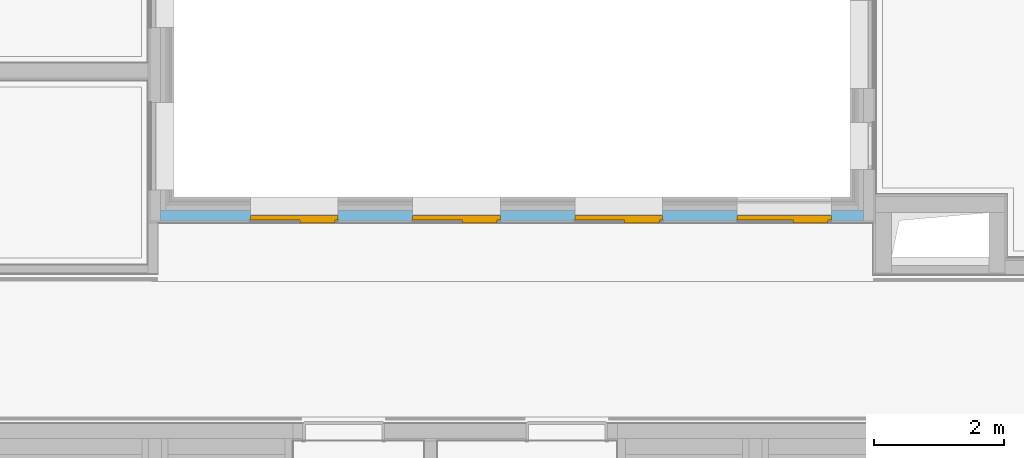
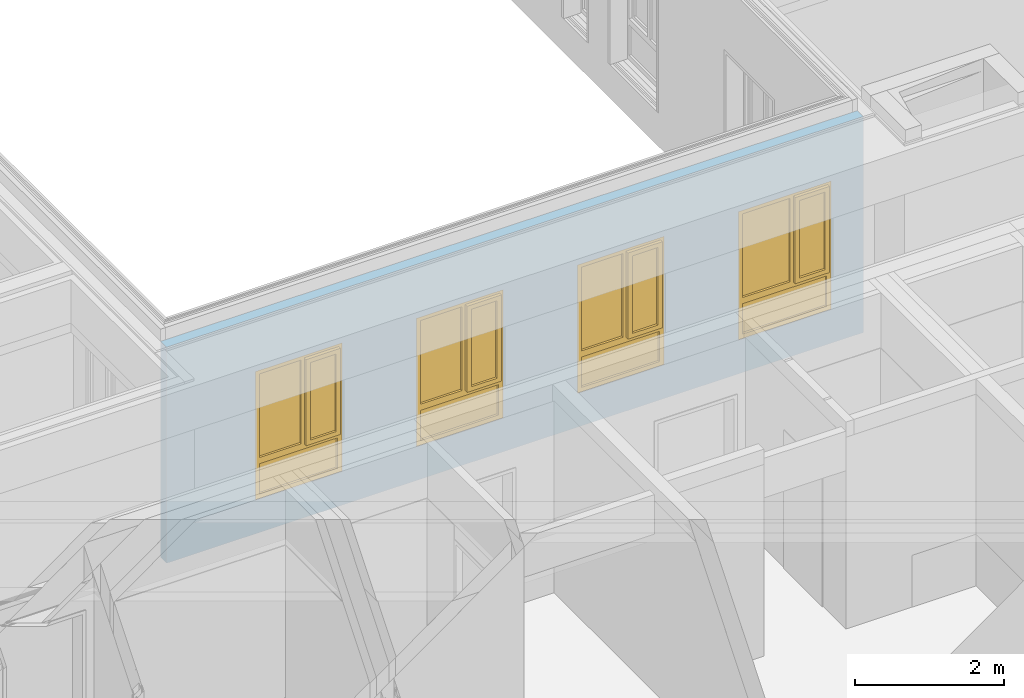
# One storey, part 65 of 222: 4 windows, 4 openings, plus 1 element that does not belong to this part.
"""IFC4 building model written with IfcOpenShell, lengths in metres."""

from ifc_helpers import new_model, entity, si_unit, converted_unit, derived_unit, frame, frame_2d, origin, origin_with_axes, place, context, subcontext, project, spatial, polyline, rectangle, outline, extrude, closed_shell, open_shell, surface_model, source, transform, mapped, material, element, fill, save


model = new_model("IFC4")

# Units and contexts
model_context = context("Model", 3, precision=1e-05, world=origin())
body_context = subcontext(model_context, "Body", "Model", "MODEL_VIEW")
ifc_project = project(units=[si_unit("LENGTHUNIT", "METRE"), si_unit("AREAUNIT", "SQUARE_METRE"), si_unit("VOLUMEUNIT", "CUBIC_METRE"), si_unit("MASSUNIT", "GRAM", prefix="KILO"), converted_unit("PLANEANGLEUNIT", "DEGREE", entity("IfcPlaneAngleMeasure", 0.0174532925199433), si_unit("PLANEANGLEUNIT", "RADIAN"), dimensions=[0, 0, 0, 0, 0, 0, 0]), derived_unit("THERMALTRANSMITTANCEUNIT", [(si_unit("POWERUNIT", "WATT"), 1), (si_unit("THERMODYNAMICTEMPERATUREUNIT", "KELVIN"), -1), (si_unit("LENGTHUNIT", "METRE"), -2)]), derived_unit("VOLUMETRICFLOWRATEUNIT", [(si_unit("LENGTHUNIT", "METRE"), 3), (converted_unit("TIMEUNIT", "hour", entity("IfcTimeMeasure", 3600.0), si_unit("TIMEUNIT", "SECOND"), dimensions=[0, 0, 1, 0, 0, 0, 0]), -1), (si_unit("LENGTHUNIT", "METRE"), -1)])], contexts=[model_context])

# Site, building, storey
site_placement = place(None, origin())
site = spatial("IfcSite", under=ifc_project, at=site_placement, Name="Psychiatrie Neubau Wunstorf", CompositionType="ELEMENT")
building_placement = place(site_placement, origin())
building = spatial("IfcBuilding", under=site, at=building_placement, Name="Neubau H2 Stationsgebäude", CompositionType="ELEMENT")
storey_placement = place(building_placement, frame((0.0, 0.0, 3.6)))
storey = spatial("IfcBuildingStorey", under=building, at=storey_placement, Name="H2 Ebene +1", CompositionType="ELEMENT", Elevation=3.6)

# Wall, openings, windows
ifc_material = material(Name="WA-DL")
wall_placement = place(storey_placement, frame((15.835, 7.45, 0.0)))
wall = element("IfcWall", 1, at=wall_placement, inside=storey, material=ifc_material, context=body_context, shape_type="SweptSolid", body=[
    extrude(rectangle(XDim=10.83, YDim=0.160000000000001, at=frame_2d((5.41499999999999, 0.0800000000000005), x_axis=(1.0, 0.0))), origin_with_axes(), (0.0, 0.0, 1.0), 3.55),
])
opening_1_placement = place(wall_placement, frame((10.3351686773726, 0.159999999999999, 0.55), z_axis=(0.0, -1.0, 0.0), x_axis=(0.0, 0.0, 1.0)))
opening_1 = element("IfcOpeningElement", 2, at=opening_1_placement, cuts=wall, Name="Fensteröffnung", ObjectType="Opening", context=body_context, shape_type="SweptSolid", body=[
    extrude(outline(polyline([(2.115, 1.45), (2.115, 0.0), (0.0, 0.0), (0.0, 1.45), (2.115, 1.45)])), origin_with_axes(), (0.0, 0.0, 1.0), 0.160000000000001),
])
opening_2_placement = place(wall_placement, frame((7.73525366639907, 0.160000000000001, 0.55), z_axis=(0.0, -1.0, 0.0), x_axis=(0.0, 0.0, 1.0)))
opening_2 = element("IfcOpeningElement", 3, at=opening_2_placement, cuts=wall, Name="Fensteröffnung", ObjectType="Opening", context=body_context, shape_type="SweptSolid", body=[
    extrude(outline(polyline([(2.115, 1.35), (2.115, 0.0), (0.0, 0.0), (0.0, 1.35), (2.115, 1.35)])), origin_with_axes(), (0.0, 0.0, 1.0), 0.160000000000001),
])
opening_3_placement = place(wall_placement, frame((5.23525366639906, 0.160000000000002, 0.55), z_axis=(0.0, -1.0, 0.0), x_axis=(0.0, 0.0, 1.0)))
opening_3 = element("IfcOpeningElement", 4, at=opening_3_placement, cuts=wall, Name="Fensteröffnung", ObjectType="Opening", context=body_context, shape_type="SweptSolid", body=[
    extrude(outline(polyline([(2.115, 1.35), (2.115, 0.0), (0.0, 0.0), (0.0, 1.35), (2.115, 1.35)])), origin_with_axes(), (0.0, 0.0, 1.0), 0.160000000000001),
])
opening_4_placement = place(wall_placement, frame((2.7352536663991, 0.160000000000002, 0.55), z_axis=(0.0, -1.0, 0.0), x_axis=(0.0, 0.0, 1.0)))
opening_4 = element("IfcOpeningElement", 5, at=opening_4_placement, cuts=wall, Name="Fensteröffnung", ObjectType="Opening", context=body_context, shape_type="SweptSolid", body=[
    extrude(outline(polyline([(2.115, 1.35), (2.115, 0.0), (0.0, 0.0), (0.0, 1.35), (2.115, 1.35)])), origin_with_axes(), (0.0, 0.0, 1.0), 0.160000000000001),
])
shared_shape_1 = source(origin_with_axes(), body_context, "Body", "SurfaceModel", [
    surface_model("IfcShellBasedSurfaceModel", [(1.45, 0.0, 2.115), (1.45, 0.0, 0.0), (1.38, 0.0, 0.0), (1.38, 0.0, 2.115), (1.45, 0.0700000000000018, 0.0), (1.45, 0.0700000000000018, 2.115), (1.38, 0.0700000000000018, 2.115), (1.38, 0.0700000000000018, 0.0)], [closed_shell([[[0, 1, 2, 3]], [[4, 5, 6, 7]], [[1, 0, 5, 4]], [[2, 1, 4, 7]], [[3, 2, 7, 6]], [[0, 3, 6, 5]]], orient=[[False], [False], [False], [False], [False], [False]])]),
    surface_model("IfcShellBasedSurfaceModel", [(0.07, 0.0, 2.115), (0.07, 0.0, 0.0), (0.0, 0.0, 0.0), (0.0, 0.0, 2.115), (0.07, 0.0700000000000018, 0.0), (0.07, 0.0700000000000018, 2.115), (0.0, 0.0700000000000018, 2.115), (0.0, 0.0700000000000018, 0.0)], [closed_shell([[[0, 1, 2, 3]], [[4, 5, 6, 7]], [[1, 0, 5, 4]], [[2, 1, 4, 7]], [[3, 2, 7, 6]], [[0, 3, 6, 5]]], orient=[[False], [False], [False], [False], [False], [False]])]),
    surface_model("IfcShellBasedSurfaceModel", [(1.38, 0.0, 0.07), (1.38, 0.0, 0.0), (0.07, 0.0, 0.0), (0.07, 0.0, 0.07), (1.38, 0.0700000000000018, 0.0), (1.38, 0.0700000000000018, 0.07), (0.07, 0.0700000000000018, 0.07), (0.07, 0.0700000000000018, 0.0)], [closed_shell([[[0, 1, 2, 3]], [[4, 5, 6, 7]], [[1, 0, 5, 4]], [[2, 1, 4, 7]], [[3, 2, 7, 6]], [[0, 3, 6, 5]]], orient=[[False], [False], [False], [False], [False], [False]])]),
    surface_model("IfcShellBasedSurfaceModel", [(1.38, 0.0, 2.115), (1.38, 0.0, 2.045), (0.07, 0.0, 2.045), (0.07, 0.0, 2.115), (1.38, 0.0700000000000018, 2.045), (1.38, 0.0700000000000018, 2.115), (0.07, 0.0700000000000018, 2.115), (0.07, 0.0700000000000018, 2.045)], [closed_shell([[[0, 1, 2, 3]], [[4, 5, 6, 7]], [[1, 0, 5, 4]], [[2, 1, 4, 7]], [[3, 2, 7, 6]], [[0, 3, 6, 5]]], orient=[[False], [False], [False], [False], [False], [False]])]),
    surface_model("IfcShellBasedSurfaceModel", [(1.38, 0.0, 0.67), (1.38, 0.0, 0.57), (0.07, 0.0, 0.57), (0.07, 0.0, 0.67), (1.38, 0.0700000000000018, 0.57), (1.38, 0.0700000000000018, 0.67), (0.07, 0.0700000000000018, 0.67), (0.07, 0.0700000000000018, 0.57)], [closed_shell([[[0, 1, 2, 3]], [[4, 5, 6, 7]], [[1, 0, 5, 4]], [[2, 1, 4, 7]], [[3, 2, 7, 6]], [[0, 3, 6, 5]]], orient=[[False], [False], [False], [False], [False], [False]])]),
    surface_model("IfcShellBasedSurfaceModel", [(1.38, 0.0350000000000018, 0.07), (0.07, 0.0350000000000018, 0.07), (0.07, 0.0350000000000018, 0.57), (1.38, 0.0350000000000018, 0.57)], [open_shell([[[0, 1, 2, 3]]], orient=[[False]])]),
    surface_model("IfcShellBasedSurfaceModel", [(0.884299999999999, 0.0, 2.045), (0.884299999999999, 0.0, 0.67), (0.814299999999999, 0.0, 0.67), (0.814299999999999, 0.0, 2.045), (0.884299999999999, 0.0700000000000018, 0.67), (0.884299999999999, 0.0700000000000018, 2.045), (0.814299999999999, 0.0700000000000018, 2.045), (0.814299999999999, 0.0700000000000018, 0.67)], [closed_shell([[[0, 1, 2, 3]], [[4, 5, 6, 7]], [[1, 0, 5, 4]], [[2, 1, 4, 7]], [[3, 2, 7, 6]], [[0, 3, 6, 5]]], orient=[[False], [False], [False], [False], [False], [False]])]),
    surface_model("IfcShellBasedSurfaceModel", [(1.4, -0.0499999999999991, 2.065), (1.4, -0.0499999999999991, 0.65), (1.33, -0.0499999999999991, 0.65), (1.33, -0.0499999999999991, 2.065), (1.4, 0.0200000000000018, 0.65), (1.4, 0.0200000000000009, 2.065), (1.33, 0.0200000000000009, 2.065), (1.33, 0.0200000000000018, 0.65)], [closed_shell([[[0, 1, 2, 3]], [[4, 5, 6, 7]], [[1, 0, 5, 4]], [[2, 1, 4, 7]], [[3, 2, 7, 6]], [[0, 3, 6, 5]]], orient=[[False], [False], [False], [False], [False], [False]])]),
    surface_model("IfcShellBasedSurfaceModel", [(0.934299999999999, -0.0499999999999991, 2.065), (0.934299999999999, -0.0499999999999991, 0.65), (0.864299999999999, -0.0499999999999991, 0.65), (0.864299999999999, -0.0499999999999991, 2.065), (0.934299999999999, 0.0200000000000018, 0.65), (0.934299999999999, 0.0200000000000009, 2.065), (0.864299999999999, 0.0200000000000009, 2.065), (0.864299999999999, 0.0200000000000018, 0.65)], [closed_shell([[[0, 1, 2, 3]], [[4, 5, 6, 7]], [[1, 0, 5, 4]], [[2, 1, 4, 7]], [[3, 2, 7, 6]], [[0, 3, 6, 5]]], orient=[[False], [False], [False], [False], [False], [False]])]),
    surface_model("IfcShellBasedSurfaceModel", [(1.33, -0.0499999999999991, 0.72), (1.33, -0.0499999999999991, 0.65), (0.934299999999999, -0.0499999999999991, 0.65), (0.934299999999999, -0.0499999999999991, 0.72), (1.33, 0.0200000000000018, 0.65), (1.33, 0.0200000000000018, 0.72), (0.934299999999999, 0.0200000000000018, 0.72), (0.934299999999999, 0.0200000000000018, 0.65)], [closed_shell([[[0, 1, 2, 3]], [[4, 5, 6, 7]], [[1, 0, 5, 4]], [[2, 1, 4, 7]], [[3, 2, 7, 6]], [[0, 3, 6, 5]]], orient=[[False], [False], [False], [False], [False], [False]])]),
    surface_model("IfcShellBasedSurfaceModel", [(1.33, -0.0499999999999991, 2.065), (1.33, -0.0499999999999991, 1.995), (0.934299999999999, -0.0499999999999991, 1.995), (0.934299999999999, -0.0499999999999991, 2.065), (1.33, 0.0200000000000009, 1.995), (1.33, 0.0200000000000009, 2.065), (0.934299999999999, 0.0200000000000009, 2.065), (0.934299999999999, 0.0200000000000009, 1.995)], [closed_shell([[[0, 1, 2, 3]], [[4, 5, 6, 7]], [[1, 0, 5, 4]], [[2, 1, 4, 7]], [[3, 2, 7, 6]], [[0, 3, 6, 5]]], orient=[[False], [False], [False], [False], [False], [False]])]),
    surface_model("IfcShellBasedSurfaceModel", [(0.814299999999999, 0.0350000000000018, 0.67), (0.07, 0.0350000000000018, 0.67), (0.07, 0.0350000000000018, 2.045), (0.814299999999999, 0.0350000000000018, 2.045)], [open_shell([[[0, 1, 2, 3]]], orient=[[False]])]),
    surface_model("IfcShellBasedSurfaceModel", [(1.33, -0.0149999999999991, 0.72), (0.934299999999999, -0.0149999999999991, 0.72), (0.934299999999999, -0.0149999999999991, 1.995), (1.33, -0.0149999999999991, 1.995)], [open_shell([[[0, 1, 2, 3]]], orient=[[False]])]),
])
window_1_placement = place(opening_1_placement, frame((0.0, 1.45, 0.146000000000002), z_axis=(1.0, 0.0, 0.0), x_axis=(0.0, -1.0, 0.0)))
window_1 = element("IfcWindow", 6, at=window_1_placement, inside=storey, Name="Fenster", OverallHeight=2.115, OverallWidth=1.45, PartitioningType="USERDEFINED", PredefinedType="WINDOW", context=body_context, shape_type="MappedRepresentation", body=[
    mapped(shared_shape_1, transform((0.0, 0.0, 0.0), x_axis=(1.0, 0.0, 0.0), y_axis=(0.0, 1.0, 0.0), z_axis=(0.0, 0.0, 1.0), scale=1.0)),
])
fill(opening_1, window_1)
shared_shape_2 = source(origin_with_axes(), body_context, "Body", "SurfaceModel", [
    surface_model("IfcShellBasedSurfaceModel", [(1.35, 0.0, 2.115), (1.35, 0.0, 0.0), (1.28, 0.0, 0.0), (1.28, 0.0, 2.115), (1.35, 0.0700000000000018, 0.0), (1.35, 0.0700000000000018, 2.115), (1.28, 0.0700000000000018, 2.115), (1.28, 0.0700000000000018, 0.0)], [closed_shell([[[0, 1, 2, 3]], [[4, 5, 6, 7]], [[1, 0, 5, 4]], [[2, 1, 4, 7]], [[3, 2, 7, 6]], [[0, 3, 6, 5]]], orient=[[False], [False], [False], [False], [False], [False]])]),
    surface_model("IfcShellBasedSurfaceModel", [(0.07, 0.0, 2.115), (0.07, 0.0, 0.0), (0.0, 0.0, 0.0), (0.0, 0.0, 2.115), (0.07, 0.0700000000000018, 0.0), (0.07, 0.0700000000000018, 2.115), (0.0, 0.0700000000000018, 2.115), (0.0, 0.0700000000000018, 0.0)], [closed_shell([[[0, 1, 2, 3]], [[4, 5, 6, 7]], [[1, 0, 5, 4]], [[2, 1, 4, 7]], [[3, 2, 7, 6]], [[0, 3, 6, 5]]], orient=[[False], [False], [False], [False], [False], [False]])]),
    surface_model("IfcShellBasedSurfaceModel", [(1.28, 0.0, 0.07), (1.28, 0.0, 0.0), (0.07, 0.0, 0.0), (0.07, 0.0, 0.07), (1.28, 0.0700000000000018, 0.0), (1.28, 0.0700000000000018, 0.07), (0.07, 0.0700000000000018, 0.07), (0.07, 0.0700000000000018, 0.0)], [closed_shell([[[0, 1, 2, 3]], [[4, 5, 6, 7]], [[1, 0, 5, 4]], [[2, 1, 4, 7]], [[3, 2, 7, 6]], [[0, 3, 6, 5]]], orient=[[False], [False], [False], [False], [False], [False]])]),
    surface_model("IfcShellBasedSurfaceModel", [(1.28, 0.0, 2.115), (1.28, 0.0, 2.045), (0.07, 0.0, 2.045), (0.07, 0.0, 2.115), (1.28, 0.0700000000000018, 2.045), (1.28, 0.0700000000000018, 2.115), (0.07, 0.0700000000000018, 2.115), (0.07, 0.0700000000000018, 2.045)], [closed_shell([[[0, 1, 2, 3]], [[4, 5, 6, 7]], [[1, 0, 5, 4]], [[2, 1, 4, 7]], [[3, 2, 7, 6]], [[0, 3, 6, 5]]], orient=[[False], [False], [False], [False], [False], [False]])]),
    surface_model("IfcShellBasedSurfaceModel", [(1.28, 0.0, 0.67), (1.28, 0.0, 0.57), (0.07, 0.0, 0.57), (0.07, 0.0, 0.67), (1.28, 0.0700000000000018, 0.57), (1.28, 0.0700000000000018, 0.67), (0.07, 0.0700000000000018, 0.67), (0.07, 0.0700000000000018, 0.57)], [closed_shell([[[0, 1, 2, 3]], [[4, 5, 6, 7]], [[1, 0, 5, 4]], [[2, 1, 4, 7]], [[3, 2, 7, 6]], [[0, 3, 6, 5]]], orient=[[False], [False], [False], [False], [False], [False]])]),
    surface_model("IfcShellBasedSurfaceModel", [(1.28, 0.0350000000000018, 0.07), (0.07, 0.0350000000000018, 0.07), (0.07, 0.0350000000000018, 0.57), (1.28, 0.0350000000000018, 0.57)], [open_shell([[[0, 1, 2, 3]]], orient=[[False]])]),
    surface_model("IfcShellBasedSurfaceModel", [(0.784299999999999, 0.0, 2.045), (0.784299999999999, 0.0, 0.67), (0.714299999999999, 0.0, 0.67), (0.714299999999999, 0.0, 2.045), (0.784299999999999, 0.0700000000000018, 0.67), (0.784299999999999, 0.0700000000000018, 2.045), (0.714299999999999, 0.0700000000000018, 2.045), (0.714299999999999, 0.0700000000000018, 0.67)], [closed_shell([[[0, 1, 2, 3]], [[4, 5, 6, 7]], [[1, 0, 5, 4]], [[2, 1, 4, 7]], [[3, 2, 7, 6]], [[0, 3, 6, 5]]], orient=[[False], [False], [False], [False], [False], [False]])]),
    surface_model("IfcShellBasedSurfaceModel", [(1.3, -0.0499999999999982, 2.065), (1.3, -0.0499999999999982, 0.65), (1.23, -0.0499999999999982, 0.65), (1.23, -0.0499999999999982, 2.065), (1.3, 0.0200000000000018, 0.65), (1.3, 0.0200000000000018, 2.065), (1.23, 0.0200000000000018, 2.065), (1.23, 0.0200000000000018, 0.65)], [closed_shell([[[0, 1, 2, 3]], [[4, 5, 6, 7]], [[1, 0, 5, 4]], [[2, 1, 4, 7]], [[3, 2, 7, 6]], [[0, 3, 6, 5]]], orient=[[False], [False], [False], [False], [False], [False]])]),
    surface_model("IfcShellBasedSurfaceModel", [(0.834299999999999, -0.0499999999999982, 2.065), (0.834299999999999, -0.0499999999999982, 0.65), (0.764299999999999, -0.0499999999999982, 0.65), (0.764299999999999, -0.0499999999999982, 2.065), (0.834299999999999, 0.0200000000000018, 0.65), (0.834299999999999, 0.0200000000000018, 2.065), (0.764299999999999, 0.0200000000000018, 2.065), (0.764299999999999, 0.0200000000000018, 0.65)], [closed_shell([[[0, 1, 2, 3]], [[4, 5, 6, 7]], [[1, 0, 5, 4]], [[2, 1, 4, 7]], [[3, 2, 7, 6]], [[0, 3, 6, 5]]], orient=[[False], [False], [False], [False], [False], [False]])]),
    surface_model("IfcShellBasedSurfaceModel", [(1.23, -0.0499999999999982, 0.72), (1.23, -0.0499999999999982, 0.65), (0.834299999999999, -0.0499999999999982, 0.65), (0.834299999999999, -0.0499999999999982, 0.72), (1.23, 0.0200000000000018, 0.65), (1.23, 0.0200000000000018, 0.72), (0.834299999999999, 0.0200000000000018, 0.72), (0.834299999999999, 0.0200000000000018, 0.65)], [closed_shell([[[0, 1, 2, 3]], [[4, 5, 6, 7]], [[1, 0, 5, 4]], [[2, 1, 4, 7]], [[3, 2, 7, 6]], [[0, 3, 6, 5]]], orient=[[False], [False], [False], [False], [False], [False]])]),
    surface_model("IfcShellBasedSurfaceModel", [(1.23, -0.0499999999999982, 2.065), (1.23, -0.0499999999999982, 1.995), (0.834299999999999, -0.0499999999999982, 1.995), (0.834299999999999, -0.0499999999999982, 2.065), (1.23, 0.0200000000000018, 1.995), (1.23, 0.0200000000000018, 2.065), (0.834299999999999, 0.0200000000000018, 2.065), (0.834299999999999, 0.0200000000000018, 1.995)], [closed_shell([[[0, 1, 2, 3]], [[4, 5, 6, 7]], [[1, 0, 5, 4]], [[2, 1, 4, 7]], [[3, 2, 7, 6]], [[0, 3, 6, 5]]], orient=[[False], [False], [False], [False], [False], [False]])]),
    surface_model("IfcShellBasedSurfaceModel", [(0.714299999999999, 0.0350000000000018, 0.67), (0.07, 0.0350000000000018, 0.67), (0.07, 0.0350000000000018, 2.045), (0.714299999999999, 0.0350000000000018, 2.045)], [open_shell([[[0, 1, 2, 3]]], orient=[[False]])]),
    surface_model("IfcShellBasedSurfaceModel", [(1.23, -0.0149999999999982, 0.72), (0.834299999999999, -0.0149999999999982, 0.72), (0.834299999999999, -0.0149999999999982, 1.995), (1.23, -0.0149999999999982, 1.995)], [open_shell([[[0, 1, 2, 3]]], orient=[[False]])]),
])
window_2_placement = place(opening_2_placement, frame((0.0, 1.35, 0.146000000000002), z_axis=(1.0, 0.0, 0.0), x_axis=(0.0, -1.0, 0.0)))
window_2 = element("IfcWindow", 7, at=window_2_placement, inside=storey, Name="Fenster", OverallHeight=2.115, OverallWidth=1.35, PartitioningType="USERDEFINED", PredefinedType="WINDOW", context=body_context, shape_type="MappedRepresentation", body=[
    mapped(shared_shape_2, transform((0.0, 0.0, 0.0), x_axis=(1.0, 0.0, 0.0), y_axis=(0.0, 1.0, 0.0), z_axis=(0.0, 0.0, 1.0), scale=1.0)),
])
fill(opening_2, window_2)
shared_shape_3 = source(origin_with_axes(), body_context, "Body", "SurfaceModel", [
    surface_model("IfcShellBasedSurfaceModel", [(1.35, 0.0, 2.115), (1.35, 0.0, 0.0), (1.28, 0.0, 0.0), (1.28, 0.0, 2.115), (1.35, 0.0700000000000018, 0.0), (1.35, 0.0700000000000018, 2.115), (1.28, 0.0700000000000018, 2.115), (1.28, 0.0700000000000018, 0.0)], [closed_shell([[[0, 1, 2, 3]], [[4, 5, 6, 7]], [[1, 0, 5, 4]], [[2, 1, 4, 7]], [[3, 2, 7, 6]], [[0, 3, 6, 5]]], orient=[[False], [False], [False], [False], [False], [False]])]),
    surface_model("IfcShellBasedSurfaceModel", [(0.07, 0.0, 2.115), (0.07, 0.0, 0.0), (0.0, 0.0, 0.0), (0.0, 0.0, 2.115), (0.07, 0.0700000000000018, 0.0), (0.07, 0.0700000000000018, 2.115), (0.0, 0.0700000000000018, 2.115), (0.0, 0.0700000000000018, 0.0)], [closed_shell([[[0, 1, 2, 3]], [[4, 5, 6, 7]], [[1, 0, 5, 4]], [[2, 1, 4, 7]], [[3, 2, 7, 6]], [[0, 3, 6, 5]]], orient=[[False], [False], [False], [False], [False], [False]])]),
    surface_model("IfcShellBasedSurfaceModel", [(1.28, 0.0, 0.07), (1.28, 0.0, 0.0), (0.07, 0.0, 0.0), (0.07, 0.0, 0.07), (1.28, 0.0700000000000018, 0.0), (1.28, 0.0700000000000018, 0.07), (0.07, 0.0700000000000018, 0.07), (0.07, 0.0700000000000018, 0.0)], [closed_shell([[[0, 1, 2, 3]], [[4, 5, 6, 7]], [[1, 0, 5, 4]], [[2, 1, 4, 7]], [[3, 2, 7, 6]], [[0, 3, 6, 5]]], orient=[[False], [False], [False], [False], [False], [False]])]),
    surface_model("IfcShellBasedSurfaceModel", [(1.28, 0.0, 2.115), (1.28, 0.0, 2.045), (0.07, 0.0, 2.045), (0.07, 0.0, 2.115), (1.28, 0.0700000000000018, 2.045), (1.28, 0.0700000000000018, 2.115), (0.07, 0.0700000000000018, 2.115), (0.07, 0.0700000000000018, 2.045)], [closed_shell([[[0, 1, 2, 3]], [[4, 5, 6, 7]], [[1, 0, 5, 4]], [[2, 1, 4, 7]], [[3, 2, 7, 6]], [[0, 3, 6, 5]]], orient=[[False], [False], [False], [False], [False], [False]])]),
    surface_model("IfcShellBasedSurfaceModel", [(1.28, 0.0, 0.67), (1.28, 0.0, 0.57), (0.07, 0.0, 0.57), (0.07, 0.0, 0.67), (1.28, 0.0700000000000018, 0.57), (1.28, 0.0700000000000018, 0.67), (0.07, 0.0700000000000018, 0.67), (0.07, 0.0700000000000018, 0.57)], [closed_shell([[[0, 1, 2, 3]], [[4, 5, 6, 7]], [[1, 0, 5, 4]], [[2, 1, 4, 7]], [[3, 2, 7, 6]], [[0, 3, 6, 5]]], orient=[[False], [False], [False], [False], [False], [False]])]),
    surface_model("IfcShellBasedSurfaceModel", [(1.28, 0.0350000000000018, 0.07), (0.07, 0.0350000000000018, 0.07), (0.07, 0.0350000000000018, 0.57), (1.28, 0.0350000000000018, 0.57)], [open_shell([[[0, 1, 2, 3]]], orient=[[False]])]),
    surface_model("IfcShellBasedSurfaceModel", [(0.784299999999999, 0.0, 2.045), (0.784299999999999, 0.0, 0.67), (0.714299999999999, 0.0, 0.67), (0.714299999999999, 0.0, 2.045), (0.784299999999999, 0.0700000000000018, 0.67), (0.784299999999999, 0.0700000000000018, 2.045), (0.714299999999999, 0.0700000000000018, 2.045), (0.714299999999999, 0.0700000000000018, 0.67)], [closed_shell([[[0, 1, 2, 3]], [[4, 5, 6, 7]], [[1, 0, 5, 4]], [[2, 1, 4, 7]], [[3, 2, 7, 6]], [[0, 3, 6, 5]]], orient=[[False], [False], [False], [False], [False], [False]])]),
    surface_model("IfcShellBasedSurfaceModel", [(1.3, -0.0499999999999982, 2.065), (1.3, -0.0499999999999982, 0.65), (1.23, -0.0499999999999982, 0.65), (1.23, -0.0499999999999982, 2.065), (1.3, 0.0200000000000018, 0.65), (1.3, 0.0200000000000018, 2.065), (1.23, 0.0200000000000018, 2.065), (1.23, 0.0200000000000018, 0.65)], [closed_shell([[[0, 1, 2, 3]], [[4, 5, 6, 7]], [[1, 0, 5, 4]], [[2, 1, 4, 7]], [[3, 2, 7, 6]], [[0, 3, 6, 5]]], orient=[[False], [False], [False], [False], [False], [False]])]),
    surface_model("IfcShellBasedSurfaceModel", [(0.834299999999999, -0.0499999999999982, 2.065), (0.834299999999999, -0.0499999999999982, 0.65), (0.764299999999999, -0.0499999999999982, 0.65), (0.764299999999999, -0.0499999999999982, 2.065), (0.834299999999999, 0.0200000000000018, 0.65), (0.834299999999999, 0.0200000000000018, 2.065), (0.764299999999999, 0.0200000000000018, 2.065), (0.764299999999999, 0.0200000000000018, 0.65)], [closed_shell([[[0, 1, 2, 3]], [[4, 5, 6, 7]], [[1, 0, 5, 4]], [[2, 1, 4, 7]], [[3, 2, 7, 6]], [[0, 3, 6, 5]]], orient=[[False], [False], [False], [False], [False], [False]])]),
    surface_model("IfcShellBasedSurfaceModel", [(1.23, -0.0499999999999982, 0.72), (1.23, -0.0499999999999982, 0.65), (0.834299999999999, -0.0499999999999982, 0.65), (0.834299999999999, -0.0499999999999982, 0.72), (1.23, 0.0200000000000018, 0.65), (1.23, 0.0200000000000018, 0.72), (0.834299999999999, 0.0200000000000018, 0.72), (0.834299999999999, 0.0200000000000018, 0.65)], [closed_shell([[[0, 1, 2, 3]], [[4, 5, 6, 7]], [[1, 0, 5, 4]], [[2, 1, 4, 7]], [[3, 2, 7, 6]], [[0, 3, 6, 5]]], orient=[[False], [False], [False], [False], [False], [False]])]),
    surface_model("IfcShellBasedSurfaceModel", [(1.23, -0.0499999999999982, 2.065), (1.23, -0.0499999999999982, 1.995), (0.834299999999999, -0.0499999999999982, 1.995), (0.834299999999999, -0.0499999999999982, 2.065), (1.23, 0.0200000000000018, 1.995), (1.23, 0.0200000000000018, 2.065), (0.834299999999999, 0.0200000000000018, 2.065), (0.834299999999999, 0.0200000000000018, 1.995)], [closed_shell([[[0, 1, 2, 3]], [[4, 5, 6, 7]], [[1, 0, 5, 4]], [[2, 1, 4, 7]], [[3, 2, 7, 6]], [[0, 3, 6, 5]]], orient=[[False], [False], [False], [False], [False], [False]])]),
    surface_model("IfcShellBasedSurfaceModel", [(0.714299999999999, 0.0350000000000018, 0.67), (0.07, 0.0350000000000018, 0.67), (0.07, 0.0350000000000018, 2.045), (0.714299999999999, 0.0350000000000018, 2.045)], [open_shell([[[0, 1, 2, 3]]], orient=[[False]])]),
    surface_model("IfcShellBasedSurfaceModel", [(1.23, -0.0149999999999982, 0.72), (0.834299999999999, -0.0149999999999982, 0.72), (0.834299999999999, -0.0149999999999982, 1.995), (1.23, -0.0149999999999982, 1.995)], [open_shell([[[0, 1, 2, 3]]], orient=[[False]])]),
])
window_3_placement = place(opening_3_placement, frame((0.0, 1.35, 0.146000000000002), z_axis=(1.0, 0.0, 0.0), x_axis=(0.0, -1.0, 0.0)))
window_3 = element("IfcWindow", 8, at=window_3_placement, inside=storey, Name="Fenster", OverallHeight=2.115, OverallWidth=1.35, PartitioningType="USERDEFINED", PredefinedType="WINDOW", context=body_context, shape_type="MappedRepresentation", body=[
    mapped(shared_shape_3, transform((0.0, 0.0, 0.0), x_axis=(1.0, 0.0, 0.0), y_axis=(0.0, 1.0, 0.0), z_axis=(0.0, 0.0, 1.0), scale=1.0)),
])
fill(opening_3, window_3)
shared_shape_4 = source(origin_with_axes(), body_context, "Body", "SurfaceModel", [
    surface_model("IfcShellBasedSurfaceModel", [(1.35, 0.0, 2.115), (1.35, 0.0, 0.0), (1.28, 0.0, 0.0), (1.28, 0.0, 2.115), (1.35, 0.0700000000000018, 0.0), (1.35, 0.0700000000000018, 2.115), (1.28, 0.0700000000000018, 2.115), (1.28, 0.0700000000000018, 0.0)], [closed_shell([[[0, 1, 2, 3]], [[4, 5, 6, 7]], [[1, 0, 5, 4]], [[2, 1, 4, 7]], [[3, 2, 7, 6]], [[0, 3, 6, 5]]], orient=[[False], [False], [False], [False], [False], [False]])]),
    surface_model("IfcShellBasedSurfaceModel", [(0.07, 0.0, 2.115), (0.07, 0.0, 0.0), (0.0, 0.0, 0.0), (0.0, 0.0, 2.115), (0.07, 0.0700000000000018, 0.0), (0.07, 0.0700000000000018, 2.115), (0.0, 0.0700000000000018, 2.115), (0.0, 0.0700000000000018, 0.0)], [closed_shell([[[0, 1, 2, 3]], [[4, 5, 6, 7]], [[1, 0, 5, 4]], [[2, 1, 4, 7]], [[3, 2, 7, 6]], [[0, 3, 6, 5]]], orient=[[False], [False], [False], [False], [False], [False]])]),
    surface_model("IfcShellBasedSurfaceModel", [(1.28, 0.0, 0.07), (1.28, 0.0, 0.0), (0.07, 0.0, 0.0), (0.07, 0.0, 0.07), (1.28, 0.0700000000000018, 0.0), (1.28, 0.0700000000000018, 0.07), (0.07, 0.0700000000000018, 0.07), (0.07, 0.0700000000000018, 0.0)], [closed_shell([[[0, 1, 2, 3]], [[4, 5, 6, 7]], [[1, 0, 5, 4]], [[2, 1, 4, 7]], [[3, 2, 7, 6]], [[0, 3, 6, 5]]], orient=[[False], [False], [False], [False], [False], [False]])]),
    surface_model("IfcShellBasedSurfaceModel", [(1.28, 0.0, 2.115), (1.28, 0.0, 2.045), (0.07, 0.0, 2.045), (0.07, 0.0, 2.115), (1.28, 0.0700000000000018, 2.045), (1.28, 0.0700000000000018, 2.115), (0.07, 0.0700000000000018, 2.115), (0.07, 0.0700000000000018, 2.045)], [closed_shell([[[0, 1, 2, 3]], [[4, 5, 6, 7]], [[1, 0, 5, 4]], [[2, 1, 4, 7]], [[3, 2, 7, 6]], [[0, 3, 6, 5]]], orient=[[False], [False], [False], [False], [False], [False]])]),
    surface_model("IfcShellBasedSurfaceModel", [(1.28, 0.0, 0.67), (1.28, 0.0, 0.57), (0.07, 0.0, 0.57), (0.07, 0.0, 0.67), (1.28, 0.0700000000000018, 0.57), (1.28, 0.0700000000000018, 0.67), (0.07, 0.0700000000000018, 0.67), (0.07, 0.0700000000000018, 0.57)], [closed_shell([[[0, 1, 2, 3]], [[4, 5, 6, 7]], [[1, 0, 5, 4]], [[2, 1, 4, 7]], [[3, 2, 7, 6]], [[0, 3, 6, 5]]], orient=[[False], [False], [False], [False], [False], [False]])]),
    surface_model("IfcShellBasedSurfaceModel", [(1.28, 0.0350000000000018, 0.07), (0.07, 0.0350000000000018, 0.07), (0.07, 0.0350000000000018, 0.57), (1.28, 0.0350000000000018, 0.57)], [open_shell([[[0, 1, 2, 3]]], orient=[[False]])]),
    surface_model("IfcShellBasedSurfaceModel", [(0.784299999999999, 0.0, 2.045), (0.784299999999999, 0.0, 0.67), (0.714299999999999, 0.0, 0.67), (0.714299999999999, 0.0, 2.045), (0.784299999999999, 0.0700000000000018, 0.67), (0.784299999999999, 0.0700000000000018, 2.045), (0.714299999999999, 0.0700000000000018, 2.045), (0.714299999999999, 0.0700000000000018, 0.67)], [closed_shell([[[0, 1, 2, 3]], [[4, 5, 6, 7]], [[1, 0, 5, 4]], [[2, 1, 4, 7]], [[3, 2, 7, 6]], [[0, 3, 6, 5]]], orient=[[False], [False], [False], [False], [False], [False]])]),
    surface_model("IfcShellBasedSurfaceModel", [(1.3, -0.0499999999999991, 2.065), (1.3, -0.0499999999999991, 0.65), (1.23, -0.0499999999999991, 0.65), (1.23, -0.0499999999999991, 2.065), (1.3, 0.0200000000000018, 0.65), (1.3, 0.0200000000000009, 2.065), (1.23, 0.0200000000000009, 2.065), (1.23, 0.0200000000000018, 0.65)], [closed_shell([[[0, 1, 2, 3]], [[4, 5, 6, 7]], [[1, 0, 5, 4]], [[2, 1, 4, 7]], [[3, 2, 7, 6]], [[0, 3, 6, 5]]], orient=[[False], [False], [False], [False], [False], [False]])]),
    surface_model("IfcShellBasedSurfaceModel", [(0.834299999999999, -0.0499999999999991, 2.065), (0.834299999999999, -0.0499999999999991, 0.65), (0.764299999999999, -0.0499999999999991, 0.65), (0.764299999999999, -0.0499999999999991, 2.065), (0.834299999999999, 0.0200000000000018, 0.65), (0.834299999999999, 0.0200000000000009, 2.065), (0.764299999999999, 0.0200000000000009, 2.065), (0.764299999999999, 0.0200000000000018, 0.65)], [closed_shell([[[0, 1, 2, 3]], [[4, 5, 6, 7]], [[1, 0, 5, 4]], [[2, 1, 4, 7]], [[3, 2, 7, 6]], [[0, 3, 6, 5]]], orient=[[False], [False], [False], [False], [False], [False]])]),
    surface_model("IfcShellBasedSurfaceModel", [(1.23, -0.0499999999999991, 0.72), (1.23, -0.0499999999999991, 0.65), (0.834299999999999, -0.0499999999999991, 0.65), (0.834299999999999, -0.0499999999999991, 0.72), (1.23, 0.0200000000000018, 0.65), (1.23, 0.0200000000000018, 0.72), (0.834299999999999, 0.0200000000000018, 0.72), (0.834299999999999, 0.0200000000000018, 0.65)], [closed_shell([[[0, 1, 2, 3]], [[4, 5, 6, 7]], [[1, 0, 5, 4]], [[2, 1, 4, 7]], [[3, 2, 7, 6]], [[0, 3, 6, 5]]], orient=[[False], [False], [False], [False], [False], [False]])]),
    surface_model("IfcShellBasedSurfaceModel", [(1.23, -0.0499999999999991, 2.065), (1.23, -0.0499999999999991, 1.995), (0.834299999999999, -0.0499999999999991, 1.995), (0.834299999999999, -0.0499999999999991, 2.065), (1.23, 0.0200000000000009, 1.995), (1.23, 0.0200000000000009, 2.065), (0.834299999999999, 0.0200000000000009, 2.065), (0.834299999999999, 0.0200000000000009, 1.995)], [closed_shell([[[0, 1, 2, 3]], [[4, 5, 6, 7]], [[1, 0, 5, 4]], [[2, 1, 4, 7]], [[3, 2, 7, 6]], [[0, 3, 6, 5]]], orient=[[False], [False], [False], [False], [False], [False]])]),
    surface_model("IfcShellBasedSurfaceModel", [(0.714299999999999, 0.0350000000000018, 0.67), (0.07, 0.0350000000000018, 0.67), (0.07, 0.0350000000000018, 2.045), (0.714299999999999, 0.0350000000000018, 2.045)], [open_shell([[[0, 1, 2, 3]]], orient=[[False]])]),
    surface_model("IfcShellBasedSurfaceModel", [(1.23, -0.0149999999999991, 0.72), (0.834299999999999, -0.0149999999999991, 0.72), (0.834299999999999, -0.0149999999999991, 1.995), (1.23, -0.0149999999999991, 1.995)], [open_shell([[[0, 1, 2, 3]]], orient=[[False]])]),
])
window_4_placement = place(opening_4_placement, frame((0.0, 1.35, 0.146000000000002), z_axis=(1.0, 0.0, 0.0), x_axis=(0.0, -1.0, 0.0)))
window_4 = element("IfcWindow", 9, at=window_4_placement, inside=storey, Name="Fenster", OverallHeight=2.115, OverallWidth=1.35, PartitioningType="USERDEFINED", PredefinedType="WINDOW", context=body_context, shape_type="MappedRepresentation", body=[
    mapped(shared_shape_4, transform((0.0, 0.0, 0.0), x_axis=(1.0, 0.0, 0.0), y_axis=(0.0, 1.0, 0.0), z_axis=(0.0, 0.0, 1.0), scale=1.0)),
])
fill(opening_4, window_4)

save(model, "model.ifc")
